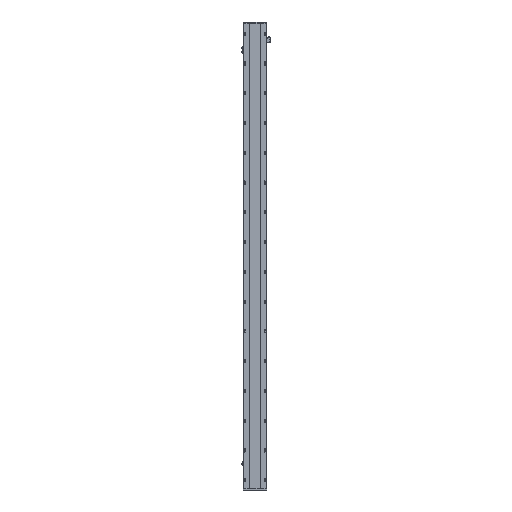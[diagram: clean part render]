
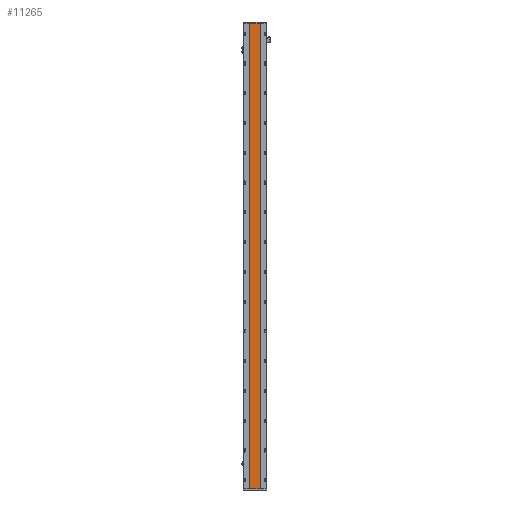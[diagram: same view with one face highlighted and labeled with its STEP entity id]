
A CAD part, front view. The second image highlights one B-rep face of the part: STEP entity #11265.
In plain terms, the highlighted planar face has unit normal (0, -1, 0).
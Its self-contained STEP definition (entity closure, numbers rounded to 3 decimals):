
#179 = VECTOR ( 'NONE', #40438, 1000. ) ;
#226 = CARTESIAN_POINT ( 'NONE',  ( 205.288, 16.9, 3376. ) ) ;
#2510 = CARTESIAN_POINT ( 'NONE',  ( 129.288, 16.9, 3376. ) ) ;
#3945 = VERTEX_POINT ( 'NONE', #22748 ) ;
#7713 = VERTEX_POINT ( 'NONE', #30230 ) ;
#7891 = ORIENTED_EDGE ( 'NONE', *, *, #38410, .T. ) ;
#8291 = DIRECTION ( 'NONE',  ( 1., 0., 0. ) ) ;
#8706 = FACE_OUTER_BOUND ( 'NONE', #29107, .T. ) ;
#9002 = CARTESIAN_POINT ( 'NONE',  ( 205.288, 16.9, 0. ) ) ;
#11209 = EDGE_CURVE ( 'NONE', #3945, #29619, #47907, .T. ) ;
#11265 = ADVANCED_FACE ( 'NONE', ( #8706 ), #23686, .F. ) ;
#12301 = LINE ( 'NONE', #44464, #20276 ) ;
#19045 = CARTESIAN_POINT ( 'NONE',  ( 205.288, 16.9, 3376. ) ) ;
#19274 = LINE ( 'NONE', #19973, #32175 ) ;
#19973 = CARTESIAN_POINT ( 'NONE',  ( 205.288, 16.9, 0. ) ) ;
#20276 = VECTOR ( 'NONE', #40563, 1000. ) ;
#21592 = ORIENTED_EDGE ( 'NONE', *, *, #11209, .F. ) ;
#22748 = CARTESIAN_POINT ( 'NONE',  ( 205.288, 16.9, 3376. ) ) ;
#23547 = VERTEX_POINT ( 'NONE', #2510 ) ;
#23686 = PLANE ( 'NONE',  #30407 ) ;
#29107 = EDGE_LOOP ( 'NONE', ( #7891, #21592, #38606, #39021 ) ) ;
#29579 = EDGE_CURVE ( 'NONE', #23547, #3945, #12301, .T. ) ;
#29619 = VERTEX_POINT ( 'NONE', #9002 ) ;
#30230 = CARTESIAN_POINT ( 'NONE',  ( 129.288, 16.9, 0. ) ) ;
#30407 = AXIS2_PLACEMENT_3D ( 'NONE', #226, #47083, #35511 ) ;
#32175 = VECTOR ( 'NONE', #8291, 1000. ) ;
#33252 = LINE ( 'NONE', #39785, #179 ) ;
#35511 = DIRECTION ( 'NONE',  ( -1., 0., 0. ) ) ;
#38410 = EDGE_CURVE ( 'NONE', #7713, #29619, #19274, .T. ) ;
#38606 = ORIENTED_EDGE ( 'NONE', *, *, #29579, .F. ) ;
#38918 = DIRECTION ( 'NONE',  ( 0., 0., -1. ) ) ;
#39021 = ORIENTED_EDGE ( 'NONE', *, *, #39776, .T. ) ;
#39776 = EDGE_CURVE ( 'NONE', #23547, #7713, #33252, .T. ) ;
#39785 = CARTESIAN_POINT ( 'NONE',  ( 129.288, 16.9, 3376. ) ) ;
#40438 = DIRECTION ( 'NONE',  ( 0., 0., -1. ) ) ;
#40563 = DIRECTION ( 'NONE',  ( 1., 0., 0. ) ) ;
#41821 = VECTOR ( 'NONE', #38918, 1000. ) ;
#44464 = CARTESIAN_POINT ( 'NONE',  ( 129.288, 16.9, 3376. ) ) ;
#47083 = DIRECTION ( 'NONE',  ( 0., 1., 0. ) ) ;
#47907 = LINE ( 'NONE', #19045, #41821 ) ;
